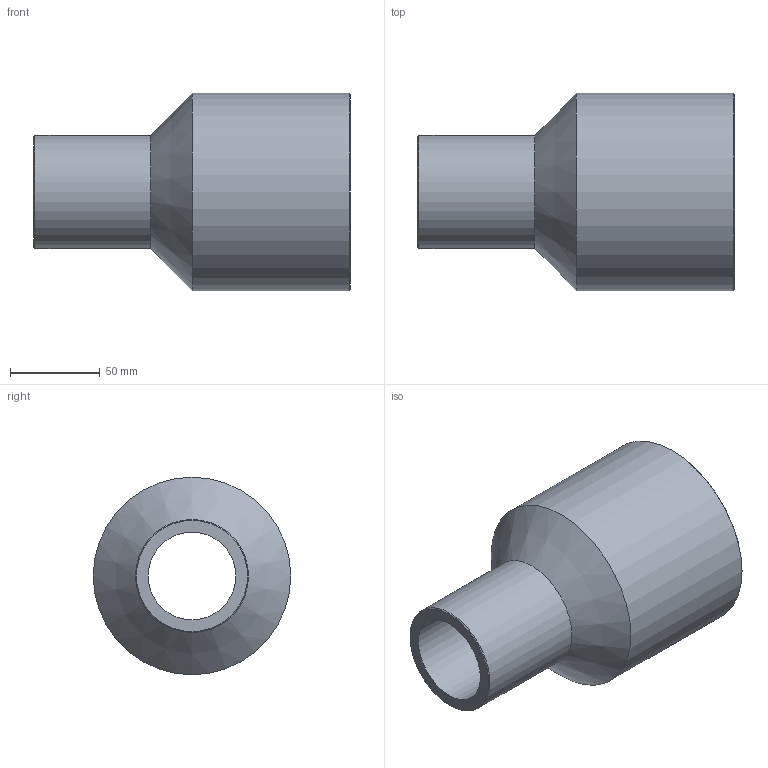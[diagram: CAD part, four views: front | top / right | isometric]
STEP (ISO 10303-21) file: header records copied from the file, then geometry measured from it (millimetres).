
FILE_DESCRIPTION(/* description */ ('Unknown'),/* implementation_level */ '2;1');
FILE_NAME(/* name */ 'RP110063G',/* time_stamp */ '2021-09-16T15:42:37+02:00',/* author */ ('Unknown'),/* organization */ ('Unknown'),/* preprocessor_version */ 'ST-DEVELOPER v16.7',/* originating_system */ 'Solid Edge',/* authorisation */ 'Unknown');
FILE_SCHEMA (('AUTOMOTIVE_DESIGN {1 0 10303 214 3 1 1}'));
Length unit declared in the file: millimetre
Products named in the file (1): RP110063G
Bounding box: 176 x 110 x 110 mm (x, y, z)
Volume: 498500.6 mm3; surface area: 95718.1 mm2
Topology: 1 solids, 1 shells, 10 faces, 19 edges, 11 vertices
Faces by surface type: cylinder 4, cone 4, plane 2
Full cylindrical faces by diameter (mm): 48.8 x1, 63 x1, 85.4 x1, 110 x1
Entity records: 238 total; most frequent: DIRECTION 42, CARTESIAN_POINT 31, AXIS2_PLACEMENT_3D 21, ORIENTED_EDGE 20, EDGE_LOOP 20, FACE_BOUND 20, EDGE_CURVE 10, VERTEX_POINT 10
